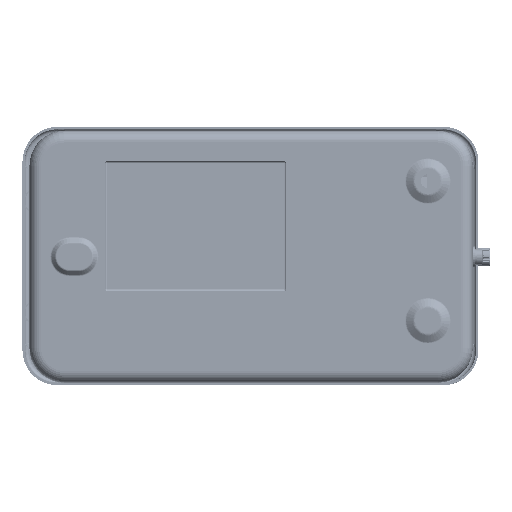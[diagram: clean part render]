
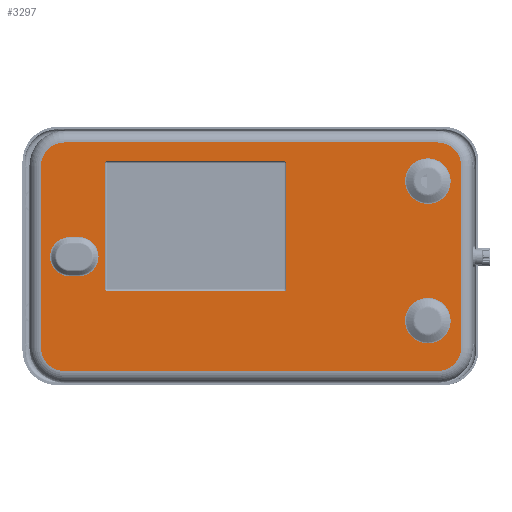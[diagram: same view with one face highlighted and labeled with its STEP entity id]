
A CAD part, top view. The second image highlights one B-rep face of the part: STEP entity #3297.
In plain terms, the highlighted planar face has unit normal (0, 0, 1).
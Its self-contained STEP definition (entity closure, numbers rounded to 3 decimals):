
#83=CARTESIAN_POINT('',(-80.3,39.1,61.3));
#84=DIRECTION('',(0.,0.,1.));
#85=DIRECTION('',(0.,1.,0.));
#86=AXIS2_PLACEMENT_3D('',#83,#84,#85);
#88=DIRECTION('',(-1.,0.,0.));
#89=VECTOR('',#88,160.6);
#90=CARTESIAN_POINT('',(80.3,49.1,61.3));
#91=LINE('',#90,#89);
#92=CARTESIAN_POINT('',(80.3,39.1,61.3));
#93=DIRECTION('',(0.,0.,1.));
#94=DIRECTION('',(1.,0.,0.));
#95=AXIS2_PLACEMENT_3D('',#92,#93,#94);
#97=DIRECTION('',(0.,1.,0.));
#98=VECTOR('',#97,78.2);
#99=CARTESIAN_POINT('',(90.3,-39.1,61.3));
#100=LINE('',#99,#98);
#101=CARTESIAN_POINT('',(80.3,-39.1,61.3));
#102=DIRECTION('',(0.,0.,1.));
#103=DIRECTION('',(0.,-1.,0.));
#104=AXIS2_PLACEMENT_3D('',#101,#102,#103);
#106=DIRECTION('',(1.,0.,0.));
#107=VECTOR('',#106,160.6);
#108=CARTESIAN_POINT('',(-80.3,-49.1,61.3));
#109=LINE('',#108,#107);
#110=CARTESIAN_POINT('',(-80.3,-39.1,61.3));
#111=DIRECTION('',(0.,0.,1.));
#112=DIRECTION('',(-1.,0.,0.));
#113=AXIS2_PLACEMENT_3D('',#110,#111,#112);
#115=DIRECTION('',(0.,-1.,0.));
#116=VECTOR('',#115,78.2);
#117=CARTESIAN_POINT('',(-90.3,39.1,61.3));
#118=LINE('',#117,#116);
#119=DIRECTION('',(-1.,0.,0.));
#120=VECTOR('',#119,4.);
#121=CARTESIAN_POINT('',(-74.,8.414,61.3));
#122=LINE('',#121,#120);
#123=CARTESIAN_POINT('',(-78.,0.,61.3));
#124=DIRECTION('',(0.,0.,1.));
#125=DIRECTION('',(0.,1.,0.));
#126=AXIS2_PLACEMENT_3D('',#123,#124,#125);
#128=DIRECTION('',(1.,0.,0.));
#129=VECTOR('',#128,4.);
#130=CARTESIAN_POINT('',(-78.,-8.414,61.3));
#131=LINE('',#130,#129);
#132=CARTESIAN_POINT('',(-74.,0.,61.3));
#133=DIRECTION('',(0.,0.,1.));
#134=DIRECTION('',(0.,-1.,0.));
#135=AXIS2_PLACEMENT_3D('',#132,#133,#134);
#137=CARTESIAN_POINT('',(76.,-27.5,61.3));
#138=DIRECTION('',(0.,0.,1.));
#139=DIRECTION('',(1.,0.,0.));
#140=AXIS2_PLACEMENT_3D('',#137,#138,#139);
#142=CARTESIAN_POINT('',(76.,-27.5,61.3));
#143=DIRECTION('',(0.,0.,1.));
#144=DIRECTION('',(-1.,0.,0.));
#145=AXIS2_PLACEMENT_3D('',#142,#143,#144);
#147=CARTESIAN_POINT('',(76.,32.5,61.3));
#148=DIRECTION('',(0.,0.,1.));
#149=DIRECTION('',(1.,0.,0.));
#150=AXIS2_PLACEMENT_3D('',#147,#148,#149);
#152=CARTESIAN_POINT('',(76.,32.5,61.3));
#153=DIRECTION('',(0.,0.,1.));
#154=DIRECTION('',(-1.,0.,0.));
#155=AXIS2_PLACEMENT_3D('',#152,#153,#154);
#157=DIRECTION('',(0.,1.,0.));
#158=VECTOR('',#157,54.);
#159=CARTESIAN_POINT('',(15.2,-13.9,61.3));
#160=LINE('',#159,#158);
#161=DIRECTION('',(-1.,0.,0.));
#162=VECTOR('',#161,76.);
#163=CARTESIAN_POINT('',(14.2,41.1,61.3));
#164=LINE('',#163,#162);
#165=DIRECTION('',(0.,-1.,0.));
#166=VECTOR('',#165,54.);
#167=CARTESIAN_POINT('',(-62.8,40.1,61.3));
#168=LINE('',#167,#166);
#169=DIRECTION('',(1.,0.,0.));
#170=VECTOR('',#169,76.);
#171=CARTESIAN_POINT('',(-61.8,-14.9,61.3));
#172=LINE('',#171,#170);
#1756=CARTESIAN_POINT('',(14.2,40.1,61.3));
#1757=DIRECTION('',(0.,0.,-1.));
#1758=DIRECTION('',(0.,1.,0.));
#1759=AXIS2_PLACEMENT_3D('',#1756,#1757,#1758);
#1773=CARTESIAN_POINT('',(14.2,-13.9,61.3));
#1774=DIRECTION('',(0.,0.,-1.));
#1775=DIRECTION('',(1.,0.,0.));
#1776=AXIS2_PLACEMENT_3D('',#1773,#1774,#1775);
#1790=CARTESIAN_POINT('',(-61.8,-13.9,61.3));
#1791=DIRECTION('',(0.,0.,-1.));
#1792=DIRECTION('',(0.,-1.,0.));
#1793=AXIS2_PLACEMENT_3D('',#1790,#1791,#1792);
#1807=CARTESIAN_POINT('',(-61.8,40.1,61.3));
#1808=DIRECTION('',(0.,0.,-1.));
#1809=DIRECTION('',(-1.,0.,0.));
#1810=AXIS2_PLACEMENT_3D('',#1807,#1808,#1809);
#2491=CARTESIAN_POINT('',(-80.3,49.1,61.3));
#2492=CARTESIAN_POINT('',(-90.3,39.1,61.3));
#2493=VERTEX_POINT('',#2491);
#2494=VERTEX_POINT('',#2492);
#2499=CARTESIAN_POINT('',(-90.3,-39.1,61.3));
#2500=VERTEX_POINT('',#2499);
#2503=CARTESIAN_POINT('',(-80.3,-49.1,61.3));
#2504=VERTEX_POINT('',#2503);
#2507=CARTESIAN_POINT('',(80.3,-49.1,61.3));
#2508=VERTEX_POINT('',#2507);
#2511=CARTESIAN_POINT('',(90.3,-39.1,61.3));
#2512=VERTEX_POINT('',#2511);
#2515=CARTESIAN_POINT('',(90.3,39.1,61.3));
#2516=VERTEX_POINT('',#2515);
#2519=CARTESIAN_POINT('',(80.3,49.1,61.3));
#2520=VERTEX_POINT('',#2519);
#2963=CARTESIAN_POINT('',(85.8,-27.5,61.3));
#2964=CARTESIAN_POINT('',(66.2,-27.5,61.3));
#2965=VERTEX_POINT('',#2963);
#2966=VERTEX_POINT('',#2964);
#2971=CARTESIAN_POINT('',(85.8,32.5,61.3));
#2972=CARTESIAN_POINT('',(66.2,32.5,61.3));
#2973=VERTEX_POINT('',#2971);
#2974=VERTEX_POINT('',#2972);
#3003=CARTESIAN_POINT('',(-74.,8.414,61.3));
#3004=CARTESIAN_POINT('',(-78.,8.414,61.3));
#3005=VERTEX_POINT('',#3003);
#3006=VERTEX_POINT('',#3004);
#3011=CARTESIAN_POINT('',(-78.,-8.414,61.3));
#3012=VERTEX_POINT('',#3011);
#3015=CARTESIAN_POINT('',(-74.,-8.414,61.3));
#3016=VERTEX_POINT('',#3015);
#3059=CARTESIAN_POINT('',(14.2,-14.9,61.3));
#3061=VERTEX_POINT('',#3059);
#3063=CARTESIAN_POINT('',(15.2,-13.9,61.3));
#3064=VERTEX_POINT('',#3063);
#3069=CARTESIAN_POINT('',(-62.8,-13.9,61.3));
#3071=VERTEX_POINT('',#3069);
#3073=CARTESIAN_POINT('',(-61.8,-14.9,61.3));
#3074=VERTEX_POINT('',#3073);
#3079=CARTESIAN_POINT('',(-61.8,41.1,61.3));
#3081=VERTEX_POINT('',#3079);
#3083=CARTESIAN_POINT('',(-62.8,40.1,61.3));
#3084=VERTEX_POINT('',#3083);
#3087=CARTESIAN_POINT('',(15.2,40.1,61.3));
#3088=VERTEX_POINT('',#3087);
#3089=CARTESIAN_POINT('',(14.2,41.1,61.3));
#3090=VERTEX_POINT('',#3089);
#3235=CARTESIAN_POINT('',(0.,0.,61.3));
#3236=DIRECTION('',(0.,0.,1.));
#3237=DIRECTION('',(-1.,0.,0.));
#3238=AXIS2_PLACEMENT_3D('',#3235,#3236,#3237);
#3239=PLANE('',#3238);
#3241=ORIENTED_EDGE('',*,*,#3240,.F.);
#3243=ORIENTED_EDGE('',*,*,#3242,.F.);
#3245=ORIENTED_EDGE('',*,*,#3244,.F.);
#3247=ORIENTED_EDGE('',*,*,#3246,.F.);
#3249=ORIENTED_EDGE('',*,*,#3248,.F.);
#3251=ORIENTED_EDGE('',*,*,#3250,.F.);
#3252=ORIENTED_EDGE('',*,*,#3225,.F.);
#3254=ORIENTED_EDGE('',*,*,#3253,.F.);
#3255=EDGE_LOOP('',(#3241,#3243,#3245,#3247,#3249,#3251,#3252,#3254));
#3256=FACE_OUTER_BOUND('',#3255,.F.);
#3258=ORIENTED_EDGE('',*,*,#3257,.T.);
#3260=ORIENTED_EDGE('',*,*,#3259,.T.);
#3262=ORIENTED_EDGE('',*,*,#3261,.T.);
#3264=ORIENTED_EDGE('',*,*,#3263,.T.);
#3265=EDGE_LOOP('',(#3258,#3260,#3262,#3264));
#3266=FACE_BOUND('',#3265,.F.);
#3268=ORIENTED_EDGE('',*,*,#3267,.T.);
#3270=ORIENTED_EDGE('',*,*,#3269,.T.);
#3271=EDGE_LOOP('',(#3268,#3270));
#3272=FACE_BOUND('',#3271,.F.);
#3274=ORIENTED_EDGE('',*,*,#3273,.T.);
#3276=ORIENTED_EDGE('',*,*,#3275,.T.);
#3277=EDGE_LOOP('',(#3274,#3276));
#3278=FACE_BOUND('',#3277,.F.);
#3280=ORIENTED_EDGE('',*,*,#3279,.T.);
#3282=ORIENTED_EDGE('',*,*,#3281,.F.);
#3284=ORIENTED_EDGE('',*,*,#3283,.T.);
#3286=ORIENTED_EDGE('',*,*,#3285,.F.);
#3288=ORIENTED_EDGE('',*,*,#3287,.T.);
#3290=ORIENTED_EDGE('',*,*,#3289,.F.);
#3292=ORIENTED_EDGE('',*,*,#3291,.T.);
#3294=ORIENTED_EDGE('',*,*,#3293,.F.);
#3295=EDGE_LOOP('',(#3280,#3282,#3284,#3286,#3288,#3290,#3292,#3294));
#3296=FACE_BOUND('',#3295,.F.);
#3297=ADVANCED_FACE('',(#3256,#3266,#3272,#3278,#3296),#3239,.T.);
#87=CIRCLE('',#86,10.);
#96=CIRCLE('',#95,10.);
#105=CIRCLE('',#104,10.);
#114=CIRCLE('',#113,10.);
#127=CIRCLE('',#126,8.414);
#136=CIRCLE('',#135,8.414);
#141=CIRCLE('',#140,9.8);
#146=CIRCLE('',#145,9.8);
#151=CIRCLE('',#150,9.8);
#156=CIRCLE('',#155,9.8);
#1760=CIRCLE('',#1759,1.);
#1777=CIRCLE('',#1776,1.);
#1794=CIRCLE('',#1793,1.);
#1811=CIRCLE('',#1810,1.);
#3225=EDGE_CURVE('',#2500,#2504,#114,.T.);
#3240=EDGE_CURVE('',#2493,#2494,#87,.T.);
#3242=EDGE_CURVE('',#2520,#2493,#91,.T.);
#3244=EDGE_CURVE('',#2516,#2520,#96,.T.);
#3246=EDGE_CURVE('',#2512,#2516,#100,.T.);
#3248=EDGE_CURVE('',#2508,#2512,#105,.T.);
#3250=EDGE_CURVE('',#2504,#2508,#109,.T.);
#3253=EDGE_CURVE('',#2494,#2500,#118,.T.);
#3257=EDGE_CURVE('',#3005,#3006,#122,.T.);
#3259=EDGE_CURVE('',#3006,#3012,#127,.T.);
#3261=EDGE_CURVE('',#3012,#3016,#131,.T.);
#3263=EDGE_CURVE('',#3016,#3005,#136,.T.);
#3267=EDGE_CURVE('',#2965,#2966,#141,.T.);
#3269=EDGE_CURVE('',#2966,#2965,#146,.T.);
#3273=EDGE_CURVE('',#2973,#2974,#151,.T.);
#3275=EDGE_CURVE('',#2974,#2973,#156,.T.);
#3279=EDGE_CURVE('',#3064,#3088,#160,.T.);
#3281=EDGE_CURVE('',#3090,#3088,#1760,.T.);
#3283=EDGE_CURVE('',#3090,#3081,#164,.T.);
#3285=EDGE_CURVE('',#3084,#3081,#1811,.T.);
#3287=EDGE_CURVE('',#3084,#3071,#168,.T.);
#3289=EDGE_CURVE('',#3074,#3071,#1794,.T.);
#3291=EDGE_CURVE('',#3074,#3061,#172,.T.);
#3293=EDGE_CURVE('',#3064,#3061,#1777,.T.);
